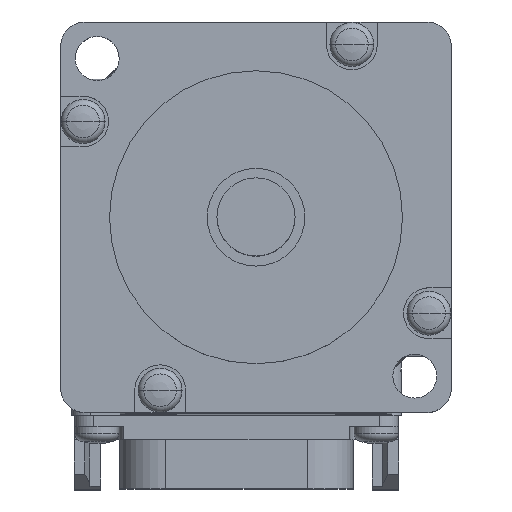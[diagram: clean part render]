
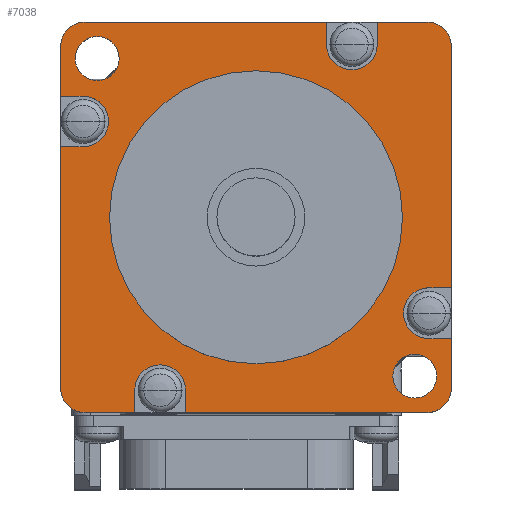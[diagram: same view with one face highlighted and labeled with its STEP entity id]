
A CAD part, top view. The second image highlights one B-rep face of the part: STEP entity #7038.
In plain terms, the highlighted planar face has unit normal (0, 0, 1).
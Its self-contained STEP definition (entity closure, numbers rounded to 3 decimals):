
#29=CARTESIAN_POINT('',(17.5,17.5,0.));
#30=DIRECTION('',(0.,0.,-1.));
#31=DIRECTION('',(0.,1.,0.));
#32=AXIS2_PLACEMENT_3D('',#29,#30,#31);
#34=CARTESIAN_POINT('',(17.711,-9.817,0.));
#35=DIRECTION('',(0.,0.,1.));
#36=DIRECTION('',(0.,1.,0.));
#37=AXIS2_PLACEMENT_3D('',#34,#35,#36);
#39=CARTESIAN_POINT('',(17.5,-17.5,0.));
#40=DIRECTION('',(0.,0.,-1.));
#41=DIRECTION('',(1.,0.,0.));
#42=AXIS2_PLACEMENT_3D('',#39,#40,#41);
#44=CARTESIAN_POINT('',(-9.817,-17.711,0.));
#45=DIRECTION('',(0.,0.,1.));
#46=DIRECTION('',(1.,0.,0.));
#47=AXIS2_PLACEMENT_3D('',#44,#45,#46);
#49=CARTESIAN_POINT('',(-17.5,-17.5,0.));
#50=DIRECTION('',(0.,0.,-1.));
#51=DIRECTION('',(0.,-1.,0.));
#52=AXIS2_PLACEMENT_3D('',#49,#50,#51);
#54=CARTESIAN_POINT('',(-17.711,9.817,0.));
#55=DIRECTION('',(0.,0.,1.));
#56=DIRECTION('',(0.,-1.,0.));
#57=AXIS2_PLACEMENT_3D('',#54,#55,#56);
#59=CARTESIAN_POINT('',(-17.5,17.5,0.));
#60=DIRECTION('',(0.,0.,-1.));
#61=DIRECTION('',(-1.,0.,0.));
#62=AXIS2_PLACEMENT_3D('',#59,#60,#61);
#64=CARTESIAN_POINT('',(9.817,17.711,0.));
#65=DIRECTION('',(0.,0.,1.));
#66=DIRECTION('',(-1.,0.,0.));
#67=AXIS2_PLACEMENT_3D('',#64,#65,#66);
#69=CARTESIAN_POINT('',(16.263,-16.263,0.));
#70=DIRECTION('',(0.,0.,1.));
#71=DIRECTION('',(0.,-1.,0.));
#72=AXIS2_PLACEMENT_3D('',#69,#70,#71);
#74=CARTESIAN_POINT('',(16.263,-16.263,0.));
#75=DIRECTION('',(0.,0.,1.));
#76=DIRECTION('',(0.,1.,0.));
#77=AXIS2_PLACEMENT_3D('',#74,#75,#76);
#79=CARTESIAN_POINT('',(-16.263,16.263,0.));
#80=DIRECTION('',(0.,0.,1.));
#81=DIRECTION('',(0.,1.,0.));
#82=AXIS2_PLACEMENT_3D('',#79,#80,#81);
#84=CARTESIAN_POINT('',(-16.263,16.263,0.));
#85=DIRECTION('',(0.,0.,1.));
#86=DIRECTION('',(0.,-1.,0.));
#87=AXIS2_PLACEMENT_3D('',#84,#85,#86);
#89=CARTESIAN_POINT('',(0.,0.,0.));
#90=DIRECTION('',(0.,0.,1.));
#91=DIRECTION('',(-1.,0.,0.));
#92=AXIS2_PLACEMENT_3D('',#89,#90,#91);
#94=CARTESIAN_POINT('',(0.,0.,0.));
#95=DIRECTION('',(0.,0.,1.));
#96=DIRECTION('',(1.,0.,0.));
#97=AXIS2_PLACEMENT_3D('',#94,#95,#96);
#131=DIRECTION('',(-1.,0.,0.));
#132=VECTOR('',#131,5.083);
#133=CARTESIAN_POINT('',(17.5,20.,0.));
#134=LINE('',#133,#132);
#135=DIRECTION('',(-1.,0.,0.));
#136=VECTOR('',#135,24.717);
#137=CARTESIAN_POINT('',(7.217,20.,0.));
#138=LINE('',#137,#136);
#315=DIRECTION('',(0.,-1.,0.));
#316=VECTOR('',#315,5.083);
#317=CARTESIAN_POINT('',(-20.,17.5,0.));
#318=LINE('',#317,#316);
#319=DIRECTION('',(0.,-1.,0.));
#320=VECTOR('',#319,24.717);
#321=CARTESIAN_POINT('',(-20.,7.217,0.));
#322=LINE('',#321,#320);
#731=DIRECTION('',(1.,0.,0.));
#732=VECTOR('',#731,5.083);
#733=CARTESIAN_POINT('',(-17.5,-20.,0.));
#734=LINE('',#733,#732);
#735=DIRECTION('',(1.,0.,0.));
#736=VECTOR('',#735,24.717);
#737=CARTESIAN_POINT('',(-7.217,-20.,0.));
#738=LINE('',#737,#736);
#837=DIRECTION('',(0.,1.,0.));
#838=VECTOR('',#837,5.083);
#839=CARTESIAN_POINT('',(20.,-17.5,0.));
#840=LINE('',#839,#838);
#841=DIRECTION('',(0.,1.,0.));
#842=VECTOR('',#841,24.717);
#843=CARTESIAN_POINT('',(20.,-7.217,0.));
#844=LINE('',#843,#842);
#3921=DIRECTION('',(-1.,0.,0.));
#3922=VECTOR('',#3921,2.289);
#3923=CARTESIAN_POINT('',(20.,-12.417,0.));
#3924=LINE('',#3923,#3922);
#3937=DIRECTION('',(1.,0.,0.));
#3938=VECTOR('',#3937,2.289);
#3939=CARTESIAN_POINT('',(17.711,-7.217,0.));
#3940=LINE('',#3939,#3938);
#4561=DIRECTION('',(0.,1.,0.));
#4562=VECTOR('',#4561,2.289);
#4563=CARTESIAN_POINT('',(-12.417,-20.,0.));
#4564=LINE('',#4563,#4562);
#4577=DIRECTION('',(0.,-1.,0.));
#4578=VECTOR('',#4577,2.289);
#4579=CARTESIAN_POINT('',(-7.217,-17.711,0.));
#4580=LINE('',#4579,#4578);
#5155=DIRECTION('',(1.,0.,0.));
#5156=VECTOR('',#5155,2.289);
#5157=CARTESIAN_POINT('',(-20.,12.417,0.));
#5158=LINE('',#5157,#5156);
#5171=DIRECTION('',(-1.,0.,0.));
#5172=VECTOR('',#5171,2.289);
#5173=CARTESIAN_POINT('',(-17.711,7.217,0.));
#5174=LINE('',#5173,#5172);
#5262=DIRECTION('',(0.,-1.,0.));
#5263=VECTOR('',#5262,2.289);
#5264=CARTESIAN_POINT('',(12.417,20.,0.));
#5265=LINE('',#5264,#5263);
#5278=DIRECTION('',(0.,1.,0.));
#5279=VECTOR('',#5278,2.289);
#5280=CARTESIAN_POINT('',(7.217,17.711,0.));
#5281=LINE('',#5280,#5279);
#5411=CARTESIAN_POINT('',(-15.,0.,0.));
#5412=VERTEX_POINT('',#5411);
#5413=CARTESIAN_POINT('',(15.,0.,0.));
#5414=VERTEX_POINT('',#5413);
#5415=CARTESIAN_POINT('',(17.5,20.,0.));
#5416=CARTESIAN_POINT('',(20.,17.5,0.));
#5417=VERTEX_POINT('',#5415);
#5418=VERTEX_POINT('',#5416);
#5419=CARTESIAN_POINT('',(17.711,-7.217,0.));
#5420=CARTESIAN_POINT('',(17.711,-12.417,0.));
#5421=VERTEX_POINT('',#5419);
#5422=VERTEX_POINT('',#5420);
#5423=CARTESIAN_POINT('',(20.,-17.5,0.));
#5424=CARTESIAN_POINT('',(17.5,-20.,0.));
#5425=VERTEX_POINT('',#5423);
#5426=VERTEX_POINT('',#5424);
#5427=CARTESIAN_POINT('',(-7.217,-17.711,0.));
#5428=CARTESIAN_POINT('',(-12.417,-17.711,0.));
#5429=VERTEX_POINT('',#5427);
#5430=VERTEX_POINT('',#5428);
#5431=CARTESIAN_POINT('',(-17.5,-20.,0.));
#5432=CARTESIAN_POINT('',(-20.,-17.5,0.));
#5433=VERTEX_POINT('',#5431);
#5434=VERTEX_POINT('',#5432);
#5435=CARTESIAN_POINT('',(-17.711,7.217,0.));
#5436=CARTESIAN_POINT('',(-17.711,12.417,0.));
#5437=VERTEX_POINT('',#5435);
#5438=VERTEX_POINT('',#5436);
#5439=CARTESIAN_POINT('',(-20.,17.5,0.));
#5440=CARTESIAN_POINT('',(-17.5,20.,0.));
#5441=VERTEX_POINT('',#5439);
#5442=VERTEX_POINT('',#5440);
#5443=CARTESIAN_POINT('',(7.217,17.711,0.));
#5444=CARTESIAN_POINT('',(12.417,17.711,0.));
#5445=VERTEX_POINT('',#5443);
#5446=VERTEX_POINT('',#5444);
#5447=CARTESIAN_POINT('',(16.263,-18.513,0.));
#5448=CARTESIAN_POINT('',(16.263,-14.013,0.));
#5449=VERTEX_POINT('',#5447);
#5450=VERTEX_POINT('',#5448);
#5451=CARTESIAN_POINT('',(-16.263,18.513,0.));
#5452=CARTESIAN_POINT('',(-16.263,14.013,0.));
#5453=VERTEX_POINT('',#5451);
#5454=VERTEX_POINT('',#5452);
#5495=CARTESIAN_POINT('',(12.417,20.,0.));
#5496=VERTEX_POINT('',#5495);
#5497=CARTESIAN_POINT('',(7.217,20.,0.));
#5498=VERTEX_POINT('',#5497);
#5568=CARTESIAN_POINT('',(-20.,12.417,0.));
#5569=VERTEX_POINT('',#5568);
#5570=CARTESIAN_POINT('',(-20.,7.217,0.));
#5571=VERTEX_POINT('',#5570);
#5679=CARTESIAN_POINT('',(20.,-12.417,0.));
#5680=VERTEX_POINT('',#5679);
#5681=CARTESIAN_POINT('',(20.,-7.217,0.));
#5682=VERTEX_POINT('',#5681);
#5860=CARTESIAN_POINT('',(-12.417,-20.,0.));
#5861=VERTEX_POINT('',#5860);
#5862=CARTESIAN_POINT('',(-7.217,-20.,0.));
#5863=VERTEX_POINT('',#5862);
#6967=CARTESIAN_POINT('',(0.,0.,0.));
#6968=DIRECTION('',(0.,0.,1.));
#6969=DIRECTION('',(1.,0.,0.));
#6970=AXIS2_PLACEMENT_3D('',#6967,#6968,#6969);
#6971=PLANE('',#6970);
#6973=ORIENTED_EDGE('',*,*,#6972,.T.);
#6975=ORIENTED_EDGE('',*,*,#6974,.F.);
#6977=ORIENTED_EDGE('',*,*,#6976,.F.);
#6979=ORIENTED_EDGE('',*,*,#6978,.T.);
#6981=ORIENTED_EDGE('',*,*,#6980,.F.);
#6983=ORIENTED_EDGE('',*,*,#6982,.F.);
#6985=ORIENTED_EDGE('',*,*,#6984,.T.);
#6987=ORIENTED_EDGE('',*,*,#6986,.F.);
#6989=ORIENTED_EDGE('',*,*,#6988,.F.);
#6991=ORIENTED_EDGE('',*,*,#6990,.T.);
#6993=ORIENTED_EDGE('',*,*,#6992,.F.);
#6995=ORIENTED_EDGE('',*,*,#6994,.F.);
#6997=ORIENTED_EDGE('',*,*,#6996,.T.);
#6999=ORIENTED_EDGE('',*,*,#6998,.F.);
#7001=ORIENTED_EDGE('',*,*,#7000,.F.);
#7003=ORIENTED_EDGE('',*,*,#7002,.T.);
#7005=ORIENTED_EDGE('',*,*,#7004,.F.);
#7007=ORIENTED_EDGE('',*,*,#7006,.F.);
#7009=ORIENTED_EDGE('',*,*,#7008,.T.);
#7011=ORIENTED_EDGE('',*,*,#7010,.F.);
#7013=ORIENTED_EDGE('',*,*,#7012,.F.);
#7015=ORIENTED_EDGE('',*,*,#7014,.T.);
#7017=ORIENTED_EDGE('',*,*,#7016,.F.);
#7019=ORIENTED_EDGE('',*,*,#7018,.F.);
#7020=EDGE_LOOP('',(#6973,#6975,#6977,#6979,#6981,#6983,#6985,#6987,#6989,#6991,
#6993,#6995,#6997,#6999,#7001,#7003,#7005,#7007,#7009,#7011,#7013,#7015,#7017,
#7019));
#7021=FACE_OUTER_BOUND('',#7020,.F.);
#7023=ORIENTED_EDGE('',*,*,#7022,.T.);
#7025=ORIENTED_EDGE('',*,*,#7024,.T.);
#7026=EDGE_LOOP('',(#7023,#7025));
#7027=FACE_BOUND('',#7026,.F.);
#7029=ORIENTED_EDGE('',*,*,#7028,.T.);
#7031=ORIENTED_EDGE('',*,*,#7030,.T.);
#7032=EDGE_LOOP('',(#7029,#7031));
#7033=FACE_BOUND('',#7032,.F.);
#7034=ORIENTED_EDGE('',*,*,#6947,.T.);
#7035=ORIENTED_EDGE('',*,*,#6961,.T.);
#7036=EDGE_LOOP('',(#7034,#7035));
#7037=FACE_BOUND('',#7036,.F.);
#7038=ADVANCED_FACE('',(#7021,#7027,#7033,#7037),#6971,.T.);
#33=CIRCLE('',#32,2.5);
#38=CIRCLE('',#37,2.6);
#43=CIRCLE('',#42,2.5);
#48=CIRCLE('',#47,2.6);
#53=CIRCLE('',#52,2.5);
#58=CIRCLE('',#57,2.6);
#63=CIRCLE('',#62,2.5);
#68=CIRCLE('',#67,2.6);
#73=CIRCLE('',#72,2.25);
#78=CIRCLE('',#77,2.25);
#83=CIRCLE('',#82,2.25);
#88=CIRCLE('',#87,2.25);
#93=CIRCLE('',#92,15.);
#98=CIRCLE('',#97,15.);
#6947=EDGE_CURVE('',#5412,#5414,#93,.T.);
#6961=EDGE_CURVE('',#5414,#5412,#98,.T.);
#6972=EDGE_CURVE('',#5417,#5418,#33,.T.);
#6974=EDGE_CURVE('',#5682,#5418,#844,.T.);
#6976=EDGE_CURVE('',#5421,#5682,#3940,.T.);
#6978=EDGE_CURVE('',#5421,#5422,#38,.T.);
#6980=EDGE_CURVE('',#5680,#5422,#3924,.T.);
#6982=EDGE_CURVE('',#5425,#5680,#840,.T.);
#6984=EDGE_CURVE('',#5425,#5426,#43,.T.);
#6986=EDGE_CURVE('',#5863,#5426,#738,.T.);
#6988=EDGE_CURVE('',#5429,#5863,#4580,.T.);
#6990=EDGE_CURVE('',#5429,#5430,#48,.T.);
#6992=EDGE_CURVE('',#5861,#5430,#4564,.T.);
#6994=EDGE_CURVE('',#5433,#5861,#734,.T.);
#6996=EDGE_CURVE('',#5433,#5434,#53,.T.);
#6998=EDGE_CURVE('',#5571,#5434,#322,.T.);
#7000=EDGE_CURVE('',#5437,#5571,#5174,.T.);
#7002=EDGE_CURVE('',#5437,#5438,#58,.T.);
#7004=EDGE_CURVE('',#5569,#5438,#5158,.T.);
#7006=EDGE_CURVE('',#5441,#5569,#318,.T.);
#7008=EDGE_CURVE('',#5441,#5442,#63,.T.);
#7010=EDGE_CURVE('',#5498,#5442,#138,.T.);
#7012=EDGE_CURVE('',#5445,#5498,#5281,.T.);
#7014=EDGE_CURVE('',#5445,#5446,#68,.T.);
#7016=EDGE_CURVE('',#5496,#5446,#5265,.T.);
#7018=EDGE_CURVE('',#5417,#5496,#134,.T.);
#7022=EDGE_CURVE('',#5449,#5450,#73,.T.);
#7024=EDGE_CURVE('',#5450,#5449,#78,.T.);
#7028=EDGE_CURVE('',#5453,#5454,#83,.T.);
#7030=EDGE_CURVE('',#5454,#5453,#88,.T.);
